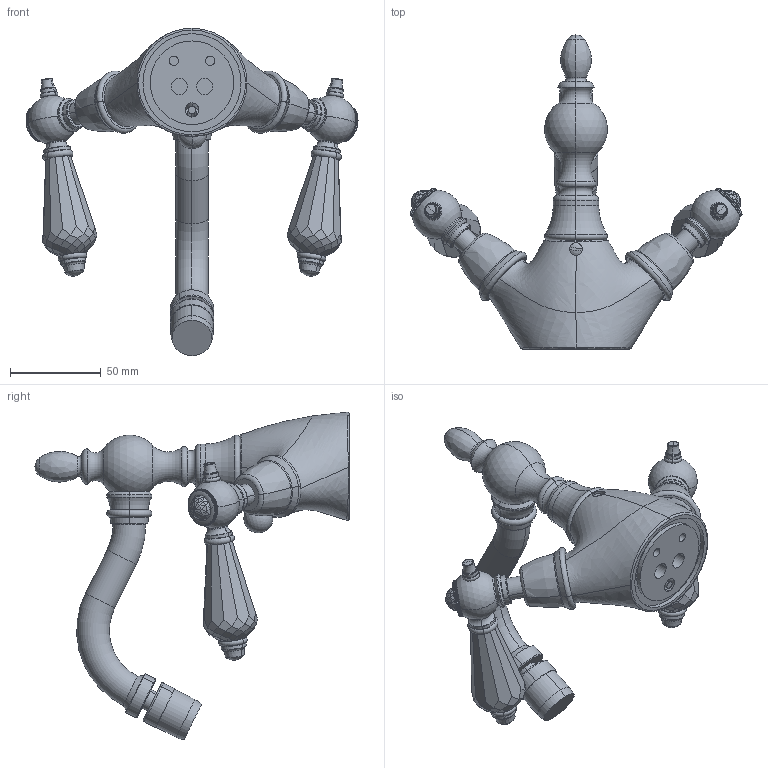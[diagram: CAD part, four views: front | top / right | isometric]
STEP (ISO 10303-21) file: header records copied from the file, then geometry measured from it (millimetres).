
FILE_DESCRIPTION((''),'2;1');
FILE_NAME('F5412C_EXPLODED_VIEW','2013-08-05T',('ivanv'),(''),'PRO/ENGINEER BY PARAMETRIC TECHNOLOGY CORPORATION, 2012130','PRO/ENGINEER BY PARAMETRIC TECHNOLOGY CORPORATION, 2012130','');
FILE_SCHEMA(('CONFIG_CONTROL_DESIGN'));
Products named in the file (1): F5412C_EXPLODED_VIEW
Bounding box: 182.79 x 173 x 180.23 mm (x, y, z)
Volume: 362915.3 mm3; surface area: 69341.4 mm2
Topology: 4 solids, 15 shells, 2109 faces, 5355 edges, 3298 vertices
Faces by surface type: plane 1379, cylinder 438, torus 140, cone 100, bspline 28, sphere 24
Entity records: 84468 total; most frequent: CARTESIAN_POINT 34615, ORIENTED_EDGE 10670, DIRECTION 10198, EDGE_CURVE 5335, AXIS2_PLACEMENT_3D 3775, VERTEX_POINT 3294, VECTOR 2648, LINE 2648
